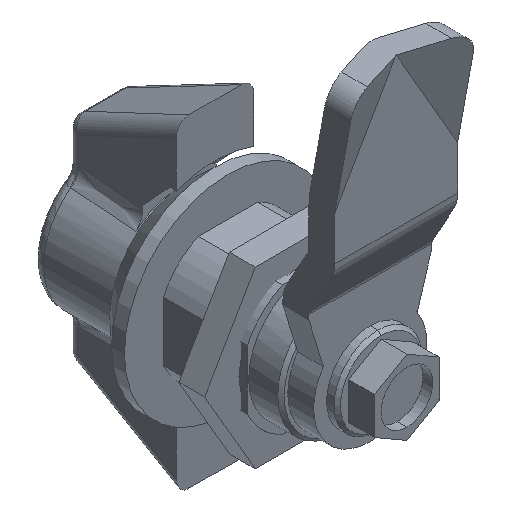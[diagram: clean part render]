
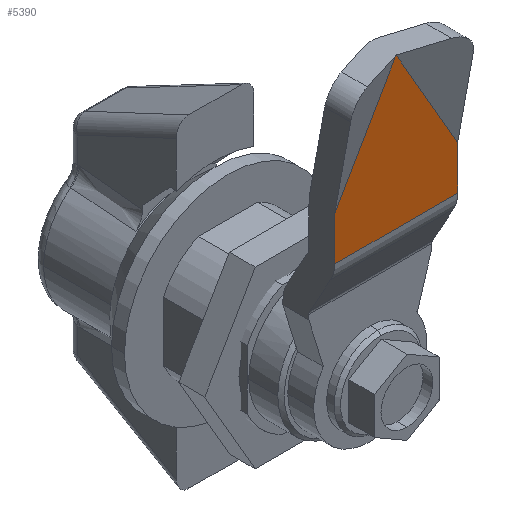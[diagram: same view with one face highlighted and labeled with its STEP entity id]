
A CAD part, isometric view. The second image highlights one B-rep face of the part: STEP entity #5390.
In plain terms, the highlighted planar face has unit normal (0, -1, 0).
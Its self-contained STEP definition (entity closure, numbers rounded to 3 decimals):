
#6 = LINE ( 'NONE', #5681, #463 ) ;
#310 = CARTESIAN_POINT ( 'NONE',  ( -28.546, -4., -9.5 ) ) ;
#463 = VECTOR ( 'NONE', #1860, 1000. ) ;
#623 = CARTESIAN_POINT ( 'NONE',  ( -11.25, -4., 19.486 ) ) ;
#847 = VECTOR ( 'NONE', #1334, 1000. ) ;
#1003 = PLANE ( 'NONE',  #5223 ) ;
#1032 = DIRECTION ( 'NONE',  ( 0., 0., 1. ) ) ;
#1209 = CARTESIAN_POINT ( 'NONE',  ( -21.5, -4., -9.5 ) ) ;
#1334 = DIRECTION ( 'NONE',  ( 0.866, 0., -0.5 ) ) ;
#1386 = LINE ( 'NONE', #1868, #3553 ) ;
#1454 = EDGE_LOOP ( 'NONE', ( #4909, #3437, #5251, #1675, #5357 ) ) ;
#1675 = ORIENTED_EDGE ( 'NONE', *, *, #2305, .T. ) ;
#1860 = DIRECTION ( 'NONE',  ( 0., 0., 1. ) ) ;
#1868 = CARTESIAN_POINT ( 'NONE',  ( -21.5, -4., 9.5 ) ) ;
#1905 = CARTESIAN_POINT ( 'NONE',  ( -11.25, -4., -19.486 ) ) ;
#1993 = DIRECTION ( 'NONE',  ( 0., 1., 0. ) ) ;
#2015 = DIRECTION ( 'NONE',  ( -0.866, 0., -0.5 ) ) ;
#2305 = EDGE_CURVE ( 'NONE', #3542, #4032, #2944, .T. ) ;
#2420 = EDGE_CURVE ( 'NONE', #5840, #3852, #3612, .T. ) ;
#2442 = CARTESIAN_POINT ( 'NONE',  ( -28.546, -4., 9.5 ) ) ;
#2784 = DIRECTION ( 'NONE',  ( 1., 0., 0. ) ) ;
#2863 = CARTESIAN_POINT ( 'NONE',  ( -21.5, -4., 20.992 ) ) ;
#2944 = LINE ( 'NONE', #623, #3001 ) ;
#2978 = EDGE_CURVE ( 'NONE', #4032, #5840, #5516, .T. ) ;
#3001 = VECTOR ( 'NONE', #2015, 1000. ) ;
#3055 = CARTESIAN_POINT ( 'NONE',  ( -21.759, -4., -9.5 ) ) ;
#3437 = ORIENTED_EDGE ( 'NONE', *, *, #3751, .T. ) ;
#3542 = VERTEX_POINT ( 'NONE', #2442 ) ;
#3553 = VECTOR ( 'NONE', #2784, 1000. ) ;
#3612 = LINE ( 'NONE', #1209, #4394 ) ;
#3751 = EDGE_CURVE ( 'NONE', #3852, #4553, #6, .T. ) ;
#3852 = VERTEX_POINT ( 'NONE', #3055 ) ;
#4032 = VERTEX_POINT ( 'NONE', #4324 ) ;
#4115 = DIRECTION ( 'NONE',  ( 1., 0., 0. ) ) ;
#4324 = CARTESIAN_POINT ( 'NONE',  ( -45., -4., 0. ) ) ;
#4394 = VECTOR ( 'NONE', #4115, 1000. ) ;
#4553 = VERTEX_POINT ( 'NONE', #5246 ) ;
#4909 = ORIENTED_EDGE ( 'NONE', *, *, #2420, .T. ) ;
#5219 = FACE_OUTER_BOUND ( 'NONE', #1454, .T. ) ;
#5223 = AXIS2_PLACEMENT_3D ( 'NONE', #2863, #1993, #1032 ) ;
#5246 = CARTESIAN_POINT ( 'NONE',  ( -21.759, -4., 9.5 ) ) ;
#5251 = ORIENTED_EDGE ( 'NONE', *, *, #5892, .F. ) ;
#5357 = ORIENTED_EDGE ( 'NONE', *, *, #2978, .T. ) ;
#5390 = ADVANCED_FACE ( 'NONE', ( #5219 ), #1003, .F. ) ;
#5516 = LINE ( 'NONE', #1905, #847 ) ;
#5681 = CARTESIAN_POINT ( 'NONE',  ( -21.759, -4., 20.992 ) ) ;
#5840 = VERTEX_POINT ( 'NONE', #310 ) ;
#5892 = EDGE_CURVE ( 'NONE', #3542, #4553, #1386, .T. ) ;
